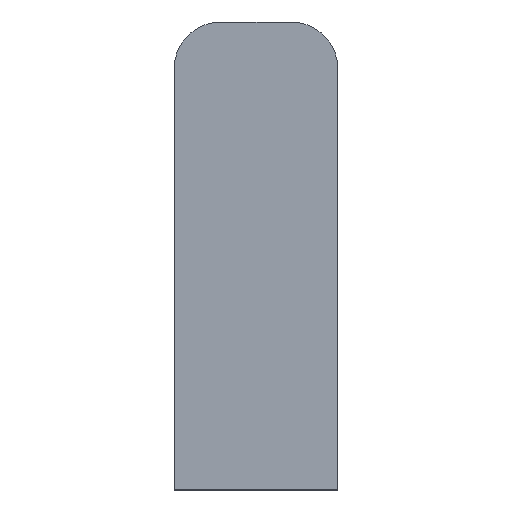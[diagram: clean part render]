
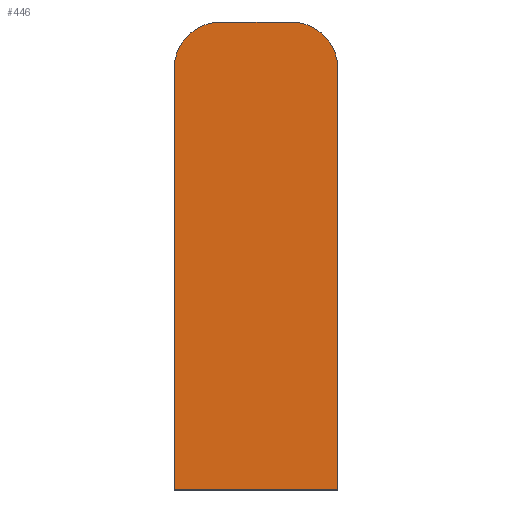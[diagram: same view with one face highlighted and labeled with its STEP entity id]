
A CAD part, front view. The second image highlights one B-rep face of the part: STEP entity #446.
In plain terms, the highlighted planar face has unit normal (0, -1, 0).
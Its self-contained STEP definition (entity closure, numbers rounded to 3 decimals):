
#15 = ORIENTED_EDGE ( 'NONE', *, *, #203, .T. ) ;
#44 = ORIENTED_EDGE ( 'NONE', *, *, #224, .T. ) ;
#45 = ORIENTED_EDGE ( 'NONE', *, *, #236, .T. ) ;
#62 = EDGE_LOOP ( 'NONE', ( #75, #76, #77, #44, #45, #15 ) ) ;
#75 = ORIENTED_EDGE ( 'NONE', *, *, #199, .T. ) ;
#76 = ORIENTED_EDGE ( 'NONE', *, *, #242, .T. ) ;
#77 = ORIENTED_EDGE ( 'NONE', *, *, #234, .T. ) ;
#84 = VECTOR ( 'NONE', #323, 1000. ) ;
#85 = CIRCLE ( 'NONE', #190, 3. ) ;
#94 = LINE ( 'NONE', #322, #84 ) ;
#98 = VECTOR ( 'NONE', #287, 1000. ) ;
#109 = LINE ( 'NONE', #288, #98 ) ;
#125 = LINE ( 'NONE', #281, #126 ) ;
#126 = VECTOR ( 'NONE', #280, 1000. ) ;
#128 = LINE ( 'NONE', #326, #129 ) ;
#129 = VECTOR ( 'NONE', #327, 1000. ) ;
#137 = CIRCLE ( 'NONE', #225, 3. ) ;
#174 = FACE_OUTER_BOUND ( 'NONE', #62, .T. ) ;
#190 = AXIS2_PLACEMENT_3D ( 'NONE', #303, #304, #305 ) ;
#199 = EDGE_CURVE ( 'NONE', #454, #264, #109, .T. ) ;
#203 = EDGE_CURVE ( 'NONE', #293, #454, #125, .T. ) ;
#224 = EDGE_CURVE ( 'NONE', #453, #258, #85, .T. ) ;
#225 = AXIS2_PLACEMENT_3D ( 'NONE', #331, #338, #339 ) ;
#234 = EDGE_CURVE ( 'NONE', #465, #453, #94, .T. ) ;
#236 = EDGE_CURVE ( 'NONE', #258, #293, #128, .T. ) ;
#242 = EDGE_CURVE ( 'NONE', #264, #465, #137, .T. ) ;
#246 = AXIS2_PLACEMENT_3D ( 'NONE', #388, #394, #395 ) ;
#258 = VERTEX_POINT ( 'NONE', #334 ) ;
#264 = VERTEX_POINT ( 'NONE', #353 ) ;
#280 = DIRECTION ( 'NONE',  ( 1., 0., 0. ) ) ;
#281 = CARTESIAN_POINT ( 'NONE',  ( 5.25, 0., -16.5 ) ) ;
#287 = DIRECTION ( 'NONE',  ( 0., 0., 1. ) ) ;
#288 = CARTESIAN_POINT ( 'NONE',  ( 5.25, 0., -16.5 ) ) ;
#293 = VERTEX_POINT ( 'NONE', #349 ) ;
#303 = CARTESIAN_POINT ( 'NONE',  ( -2.25, 0., 10.5 ) ) ;
#304 = DIRECTION ( 'NONE',  ( 0., -1., 0. ) ) ;
#305 = DIRECTION ( 'NONE',  ( -1., 0., 0. ) ) ;
#322 = CARTESIAN_POINT ( 'NONE',  ( 2.25, 0., 13.5 ) ) ;
#323 = DIRECTION ( 'NONE',  ( -1., 0., 0. ) ) ;
#326 = CARTESIAN_POINT ( 'NONE',  ( -5.25, 0., -16.5 ) ) ;
#327 = DIRECTION ( 'NONE',  ( 0., 0., -1. ) ) ;
#331 = CARTESIAN_POINT ( 'NONE',  ( 2.25, 0., 10.5 ) ) ;
#334 = CARTESIAN_POINT ( 'NONE',  ( -5.25, 0., 10.5 ) ) ;
#338 = DIRECTION ( 'NONE',  ( 0., -1., 0. ) ) ;
#339 = DIRECTION ( 'NONE',  ( -1., 0., 0. ) ) ;
#349 = CARTESIAN_POINT ( 'NONE',  ( -5.25, 0., -16.5 ) ) ;
#353 = CARTESIAN_POINT ( 'NONE',  ( 5.25, 0., 10.5 ) ) ;
#384 = PLANE ( 'NONE',  #246 ) ;
#388 = CARTESIAN_POINT ( 'NONE',  ( 0., 0., -1.5 ) ) ;
#394 = DIRECTION ( 'NONE',  ( 0., 1., 0. ) ) ;
#395 = DIRECTION ( 'NONE',  ( -1., 0., 0. ) ) ;
#409 = CARTESIAN_POINT ( 'NONE',  ( -2.25, 0., 13.5 ) ) ;
#410 = CARTESIAN_POINT ( 'NONE',  ( 5.25, 0., -16.5 ) ) ;
#417 = CARTESIAN_POINT ( 'NONE',  ( 2.25, 0., 13.5 ) ) ;
#446 = ADVANCED_FACE ( 'NONE', ( #174 ), #384, .F. ) ;
#453 = VERTEX_POINT ( 'NONE', #409 ) ;
#454 = VERTEX_POINT ( 'NONE', #410 ) ;
#465 = VERTEX_POINT ( 'NONE', #417 ) ;
